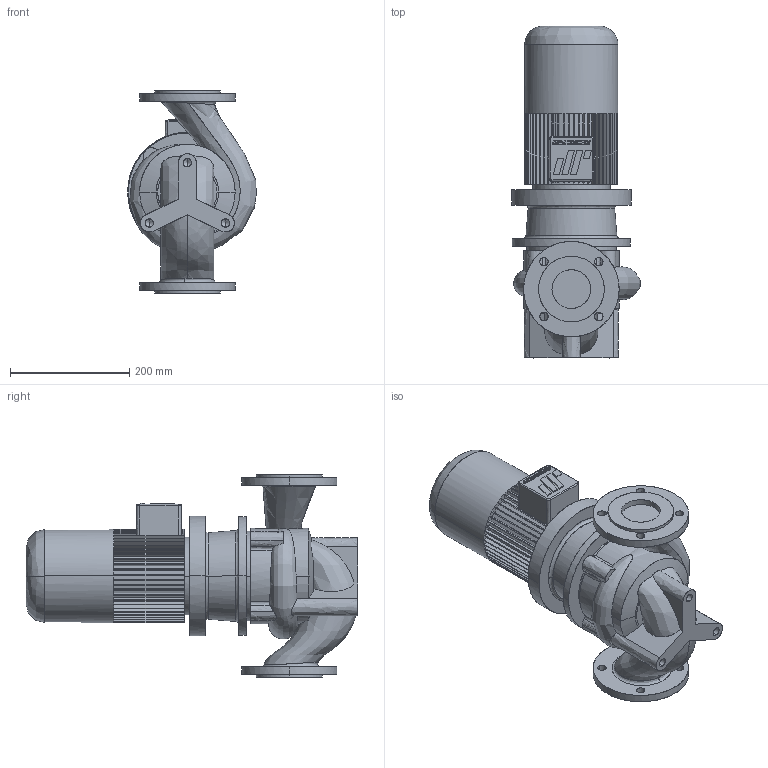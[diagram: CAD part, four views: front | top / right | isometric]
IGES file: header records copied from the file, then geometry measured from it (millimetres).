
Start section: CombiLine
Global section: file name: CLB_65-125_IEC80.igs; native system:  By UGS Corp.; preprocessor: XPlus GENERIC/IGES 3.0; author: Stageplaats; organization: Johnson Pump Water B.V.; date: 20070713.131907; units: millimetre
Bounding box: 215.43 x 556 x 340 mm (x, y, z)
Surface area: 631128.3 mm2 (no closed solid volume)
Topology: 0 solids, 0 shells, 520 faces, 3156 edges, 3150 vertices
Faces by surface type: bspline 520
